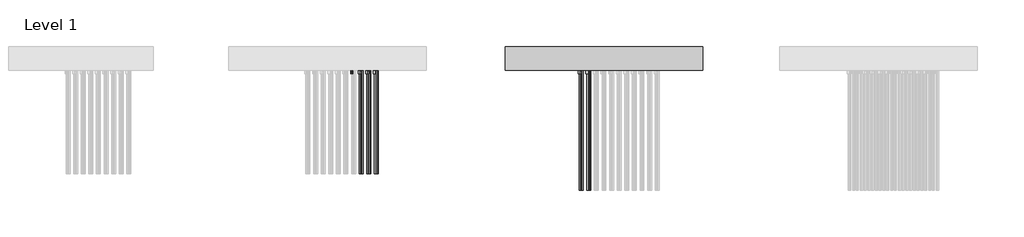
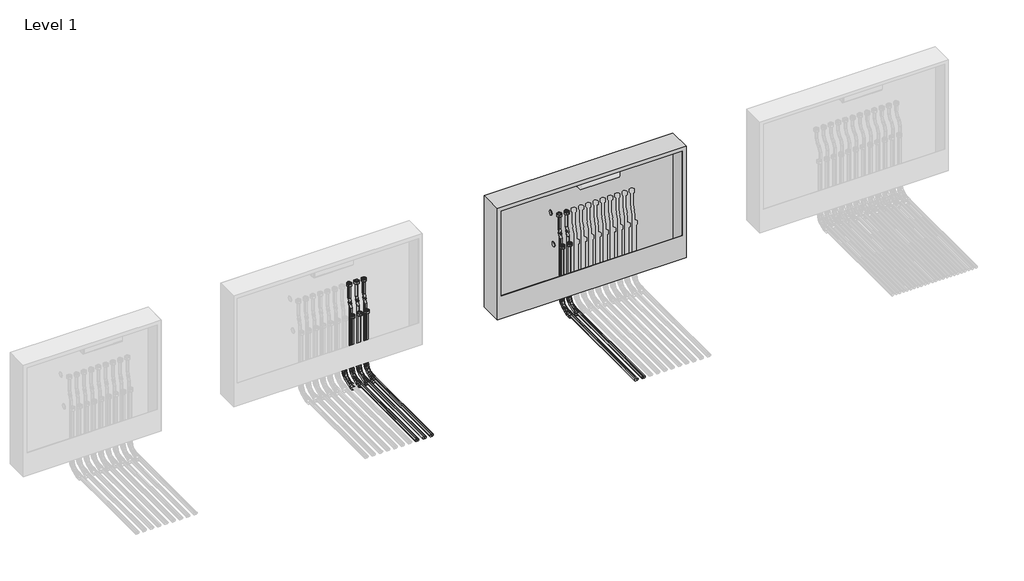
# One storey, part 11 of 15: 43 pipe fittings, 32 pipe segments, 1 valve.
"""IFC4 building model written with IfcOpenShell, lengths in millimetres."""

from ifc_helpers import new_model, si_unit, point, frame, frame_2d, origin, place, context, project, spatial, circle_curve, trimmed, segment, composite_curve, outline, extrude, transform, mapped, element, save
from components import pipe_fitting_b05a7e06, pipe_fitting_27357a6d, pipe_fitting_daada113, pipe_fitting_3e503640, valve_75f531ea

model = new_model("IFC4")

# Units and contexts
model_context = context("Model", 3, world=origin())
ifc_project = project(units=[si_unit("LENGTHUNIT", "METRE", prefix="MILLI")], contexts=[model_context])

# Site, building, storey
site = spatial("IfcSite", under=ifc_project)
building = spatial("IfcBuilding", under=site)
storey = spatial("IfcBuildingStorey", under=building, Name="Level 1", Elevation=0.0)

# Pipe fittings
placement = place(None, origin())
pipe_fitting_shape = pipe_fitting_b05a7e06(model_context)
element("IfcPipeFitting", 1, ObjectType="USYSTEMS_УгловойФиксатор_Multi : Угловой фиксатор", at=placement, inside=storey, context=model_context, shape_type="MappedRepresentation", body=[
    mapped(pipe_fitting_shape, transform((13406.541018, 3819.4868288, -114.3211479), x_axis=(0.0, 0.0, -1.0), y_axis=(0.0, -1.0, 0.0), z_axis=(-1.0, 0.0, 0.0))),
])
element("IfcPipeFitting", 2, ObjectType="USYSTEMS_УгловойФиксатор_Multi : Угловой фиксатор", at=placement, inside=storey, context=model_context, shape_type="MappedRepresentation", body=[
    mapped(pipe_fitting_shape, transform((13416.6267744, 3855.4871509, -114.3211479), x_axis=(0.0, 0.0, -1.0), y_axis=(0.0, -1.0, 0.0), z_axis=(-1.0, 0.0, 0.0))),
])
element("IfcPipeFitting", 3, ObjectType="USYSTEMS_УгловойФиксатор_Multi : Угловой фиксатор", at=placement, inside=storey, context=model_context, shape_type="MappedRepresentation", body=[
    mapped(pipe_fitting_shape, transform((13456.541018, 3819.4868288, -114.3211479), x_axis=(0.0, 0.0, -1.0), y_axis=(0.0, -1.0, 0.0), z_axis=(-1.0, 0.0, 0.0))),
])
element("IfcPipeFitting", 4, ObjectType="USYSTEMS_УгловойФиксатор_Multi : Угловой фиксатор", at=placement, inside=storey, context=model_context, shape_type="MappedRepresentation", body=[
    mapped(pipe_fitting_shape, transform((13466.6267744, 3855.4868288, -114.3211479), x_axis=(0.0, 0.0, -1.0), y_axis=(0.0, -1.0, 0.0), z_axis=(-1.0, 0.0, 0.0))),
])
element("IfcPipeFitting", 5, ObjectType="USYSTEMS_УгловойФиксатор_Multi : Угловой фиксатор", at=placement, inside=storey, context=model_context, shape_type="MappedRepresentation", body=[
    mapped(pipe_fitting_shape, transform((13506.541018, 3819.4868288, -114.3211479), x_axis=(0.0, 0.0, -1.0), y_axis=(0.0, -1.0, 0.0), z_axis=(-1.0, 0.0, 0.0))),
])
element("IfcPipeFitting", 6, ObjectType="USYSTEMS_УгловойФиксатор_Multi : Угловой фиксатор", at=placement, inside=storey, context=model_context, shape_type="MappedRepresentation", body=[
    mapped(pipe_fitting_shape, transform((13516.6267744, 3855.4868288, -114.3211479), x_axis=(0.0, 0.0, -1.0), y_axis=(0.0, -1.0, 0.0), z_axis=(-1.0, 0.0, 0.0))),
])
element("IfcPipeFitting", 7, ObjectType="USYSTEMS_УгловойФиксатор_Multi : Угловой фиксатор", at=placement, inside=storey, context=model_context, shape_type="MappedRepresentation", body=[
    mapped(pipe_fitting_shape, transform((13556.541018, 3819.4868288, -114.3211479), x_axis=(0.0, 0.0, -1.0), y_axis=(0.0, -1.0, 0.0), z_axis=(-1.0, 0.0, 0.0))),
])
element("IfcPipeFitting", 8, ObjectType="USYSTEMS_УгловойФиксатор_Multi : Угловой фиксатор", at=placement, inside=storey, context=model_context, shape_type="MappedRepresentation", body=[
    mapped(pipe_fitting_shape, transform((13566.6267744, 3855.4868288, -114.3211479), x_axis=(0.0, 0.0, -1.0), y_axis=(0.0, -1.0, 0.0), z_axis=(-1.0, 0.0, 0.0))),
])
element("IfcPipeFitting", 9, ObjectType="USYSTEMS_УгловойФиксатор_Multi : Угловой фиксатор", at=placement, inside=storey, context=model_context, shape_type="MappedRepresentation", body=[
    mapped(pipe_fitting_shape, transform((14904.1980115, 3819.7094543, -114.3211479), x_axis=(0.0, 0.0, -1.0), y_axis=(0.0, -1.0, 0.0), z_axis=(-1.0, 0.0, 0.0))),
])
element("IfcPipeFitting", 10, ObjectType="USYSTEMS_УгловойФиксатор_Multi : Угловой фиксатор", at=placement, inside=storey, context=model_context, shape_type="MappedRepresentation", body=[
    mapped(pipe_fitting_shape, transform((14954.1980115, 3819.7094543, -114.3211479), x_axis=(0.0, 0.0, -1.0), y_axis=(0.0, -1.0, 0.0), z_axis=(-1.0, 0.0, 0.0))),
])
element("IfcPipeFitting", 11, ObjectType="USYSTEMS_УгловойФиксатор_Multi : Угловой фиксатор", at=placement, inside=storey, context=model_context, shape_type="MappedRepresentation", body=[
    mapped(pipe_fitting_shape, transform((14914.283768, 3855.7094543, -114.3211479), x_axis=(0.0, 0.0, -1.0), y_axis=(0.0, -1.0, 0.0), z_axis=(-1.0, 0.0, 0.0))),
])
element("IfcPipeFitting", 12, ObjectType="USYSTEMS_УгловойФиксатор_Multi : Угловой фиксатор", at=placement, inside=storey, context=model_context, shape_type="MappedRepresentation", body=[
    mapped(pipe_fitting_shape, transform((14964.283768, 3855.7094543, -114.3211479), x_axis=(0.0, 0.0, -1.0), y_axis=(0.0, -1.0, 0.0), z_axis=(-1.0, 0.0, 0.0))),
])
pipe_fitting_2_shape = pipe_fitting_27357a6d(model_context)
element("IfcPipeFitting", 13, ObjectType="USYSTEMS_Штуцер с внутренней резьбой_FlexX_PEX : 16x2,0 x 3/4\" ВР Евроконус", at=placement, inside=storey, context=model_context, shape_type="MappedRepresentation", body=[
    mapped(pipe_fitting_2_shape, transform((13456.541018, 3819.4872889, 328.3084133), x_axis=(0.0, 0.0, 1.0), y_axis=(0.0, 1.0, 0.0), z_axis=(-1.0, 0.0, 0.0))),
])
element("IfcPipeFitting", 14, ObjectType="USYSTEMS_Штуцер с внутренней резьбой_FlexX_PEX : 16x2,0 x 3/4\" ВР Евроконус", at=placement, inside=storey, context=model_context, shape_type="MappedRepresentation", body=[
    mapped(pipe_fitting_2_shape, transform((13456.541018, 3855.4872889, 538.3084133), x_axis=(0.0, 0.0, 1.0), y_axis=(0.0, 1.0, 0.0), z_axis=(-1.0, 0.0, 0.0))),
])
element("IfcPipeFitting", 15, ObjectType="USYSTEMS_Штуцер с внутренней резьбой_FlexX_PEX : 16x2,0 x 3/4\" ВР Евроконус", at=placement, inside=storey, context=model_context, shape_type="MappedRepresentation", body=[
    mapped(pipe_fitting_2_shape, transform((13506.541018, 3819.4872889, 328.3084133), x_axis=(0.0, 0.0, 1.0), y_axis=(0.0, 1.0, 0.0), z_axis=(-1.0, 0.0, 0.0))),
])
element("IfcPipeFitting", 16, ObjectType="USYSTEMS_Штуцер с внутренней резьбой_FlexX_PEX : 16x2,0 x 3/4\" ВР Евроконус", at=placement, inside=storey, context=model_context, shape_type="MappedRepresentation", body=[
    mapped(pipe_fitting_2_shape, transform((13506.541018, 3855.4872889, 538.3084133), x_axis=(0.0, 0.0, 1.0), y_axis=(0.0, 1.0, 0.0), z_axis=(-1.0, 0.0, 0.0))),
])
element("IfcPipeFitting", 17, ObjectType="USYSTEMS_Штуцер с внутренней резьбой_FlexX_PEX : 16x2,0 x 3/4\" ВР Евроконус", at=placement, inside=storey, context=model_context, shape_type="MappedRepresentation", body=[
    mapped(pipe_fitting_2_shape, transform((13556.541018, 3819.4872889, 328.3084133), x_axis=(0.0, 0.0, 1.0), y_axis=(0.0, 1.0, 0.0), z_axis=(-1.0, 0.0, 0.0))),
])
element("IfcPipeFitting", 18, ObjectType="USYSTEMS_Штуцер с внутренней резьбой_FlexX_PEX : 16x2,0 x 3/4\" ВР Евроконус", at=placement, inside=storey, context=model_context, shape_type="MappedRepresentation", body=[
    mapped(pipe_fitting_2_shape, transform((13556.541018, 3855.4872889, 538.3084133), x_axis=(0.0, 0.0, 1.0), y_axis=(0.0, 1.0, 0.0), z_axis=(-1.0, 0.0, 0.0))),
])
element("IfcPipeFitting", 19, ObjectType="USYSTEMS_Штуцер с внутренней резьбой_FlexX_PEX : 16x2,0 x 3/4\" ВР Евроконус", at=placement, inside=storey, context=model_context, shape_type="MappedRepresentation", body=[
    mapped(pipe_fitting_2_shape, transform((14954.1980115, 3855.7099144, 538.3084133), x_axis=(0.0, 0.0, 1.0), y_axis=(0.0, 1.0, 0.0), z_axis=(-1.0, 0.0, 0.0))),
])
element("IfcPipeFitting", 20, ObjectType="USYSTEMS_Штуцер с внутренней резьбой_FlexX_PEX : 16x2,0 x 3/4\" ВР Евроконус", at=placement, inside=storey, context=model_context, shape_type="MappedRepresentation", body=[
    mapped(pipe_fitting_2_shape, transform((14954.1980115, 3819.7099144, 328.3084133), x_axis=(0.0, 0.0, 1.0), y_axis=(0.0, 1.0, 0.0), z_axis=(-1.0, 0.0, 0.0))),
])
element("IfcPipeFitting", 21, ObjectType="USYSTEMS_Штуцер с внутренней резьбой_FlexX_PEX : 16x2,0 x 3/4\" ВР Евроконус", at=placement, inside=storey, context=model_context, shape_type="MappedRepresentation", body=[
    mapped(pipe_fitting_2_shape, transform((14904.1980115, 3819.7099144, 328.3084133), x_axis=(0.0, 0.0, 1.0), y_axis=(0.0, 1.0, 0.0), z_axis=(-1.0, 0.0, 0.0))),
])
element("IfcPipeFitting", 22, ObjectType="USYSTEMS_Штуцер с внутренней резьбой_FlexX_PEX : 16x2,0 x 3/4\" ВР Евроконус", at=placement, inside=storey, context=model_context, shape_type="MappedRepresentation", body=[
    mapped(pipe_fitting_2_shape, transform((14904.1980115, 3855.7099144, 538.3084133), x_axis=(0.0, 0.0, 1.0), y_axis=(0.0, 1.0, 0.0), z_axis=(-1.0, 0.0, 0.0))),
])
pipe_fitting_3_shape = pipe_fitting_daada113(model_context)
element("IfcPipeFitting", 23, ObjectType="USYSTEMS_Гнутая труба_Radi Pipe : PN 6 в бухтах", at=placement, inside=storey, context=model_context, shape_type="MappedRepresentation", body=[
    mapped(pipe_fitting_3_shape, transform((13456.541018, 3855.4865289, 414.5388211), x_axis=(0.0, 0.0, -1.0), y_axis=(1.0, 0.0, 0.0), z_axis=(0.0, -1.0, 0.0))),
])
element("IfcPipeFitting", 24, ObjectType="USYSTEMS_Гнутая труба_Radi Pipe : PN 6 в бухтах", at=placement, inside=storey, context=model_context, shape_type="MappedRepresentation", body=[
    mapped(pipe_fitting_3_shape, transform((13466.6267744, 3855.4868288, 388.2645272), x_axis=(0.3583679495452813, 0.0, -0.9335804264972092), y_axis=(-0.9335804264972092, 0.0, -0.3583679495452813), z_axis=(0.0, 1.0, 0.0))),
])
element("IfcPipeFitting", 25, ObjectType="USYSTEMS_Гнутая труба_Radi Pipe : PN 6 в бухтах", at=placement, inside=storey, context=model_context, shape_type="MappedRepresentation", body=[
    mapped(pipe_fitting_3_shape, transform((13506.541018, 3855.4865289, 414.5388211), x_axis=(0.0, 0.0, -1.0), y_axis=(1.0, 0.0, 0.0), z_axis=(0.0, -1.0, 0.0))),
])
element("IfcPipeFitting", 26, ObjectType="USYSTEMS_Гнутая труба_Radi Pipe : PN 6 в бухтах", at=placement, inside=storey, context=model_context, shape_type="MappedRepresentation", body=[
    mapped(pipe_fitting_3_shape, transform((13516.6267744, 3855.4868288, 388.2645272), x_axis=(0.3583679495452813, 0.0, -0.9335804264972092), y_axis=(-0.9335804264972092, 0.0, -0.3583679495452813), z_axis=(0.0, 1.0, 0.0))),
])
element("IfcPipeFitting", 27, ObjectType="USYSTEMS_Гнутая труба_Radi Pipe : PN 6 в бухтах", at=placement, inside=storey, context=model_context, shape_type="MappedRepresentation", body=[
    mapped(pipe_fitting_3_shape, transform((13556.541018, 3855.4865289, 414.5388211), x_axis=(0.0, 0.0, -1.0), y_axis=(1.0, 0.0, 0.0), z_axis=(0.0, -1.0, 0.0))),
])
element("IfcPipeFitting", 28, ObjectType="USYSTEMS_Гнутая труба_Radi Pipe : PN 6 в бухтах", at=placement, inside=storey, context=model_context, shape_type="MappedRepresentation", body=[
    mapped(pipe_fitting_3_shape, transform((13566.6267744, 3855.4868288, 388.2645272), x_axis=(0.3583679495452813, 0.0, -0.9335804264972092), y_axis=(-0.9335804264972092, 0.0, -0.3583679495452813), z_axis=(0.0, 1.0, 0.0))),
])
pipe_fitting_4_shape = pipe_fitting_3e503640(model_context)
element("IfcPipeFitting", 29, ObjectType="USYSTEMS_Гнутая труба_Radi Pipe : PN 6 в бухтах_С фиксатором", at=placement, inside=storey, context=model_context, shape_type="MappedRepresentation", body=[
    mapped(pipe_fitting_4_shape, transform((13416.6267744, 3855.4871509, -114.3211479), x_axis=(0.0, 0.0, -1.0), y_axis=(0.0, -1.0, 0.0), z_axis=(-1.0, 0.0, 0.0))),
])
element("IfcPipeFitting", 30, ObjectType="USYSTEMS_Гнутая труба_Radi Pipe : PN 6 в бухтах_С фиксатором", at=placement, inside=storey, context=model_context, shape_type="MappedRepresentation", body=[
    mapped(pipe_fitting_4_shape, transform((13456.541018, 3819.4868288, -114.3211479), x_axis=(0.0, 0.0, -1.0), y_axis=(0.0, -1.0, 0.0), z_axis=(-1.0, 0.0, 0.0))),
])
element("IfcPipeFitting", 31, ObjectType="USYSTEMS_Гнутая труба_Radi Pipe : PN 6 в бухтах_С фиксатором", at=placement, inside=storey, context=model_context, shape_type="MappedRepresentation", body=[
    mapped(pipe_fitting_4_shape, transform((13466.6267744, 3855.4868288, -114.3211479), x_axis=(0.0, 0.0, -1.0), y_axis=(0.0, -1.0, 0.0), z_axis=(-1.0, 0.0, 0.0))),
])
element("IfcPipeFitting", 32, ObjectType="USYSTEMS_Гнутая труба_Radi Pipe : PN 6 в бухтах_С фиксатором", at=placement, inside=storey, context=model_context, shape_type="MappedRepresentation", body=[
    mapped(pipe_fitting_4_shape, transform((13506.541018, 3819.4868288, -114.3211479), x_axis=(0.0, 0.0, -1.0), y_axis=(0.0, -1.0, 0.0), z_axis=(-1.0, 0.0, 0.0))),
])
element("IfcPipeFitting", 33, ObjectType="USYSTEMS_Гнутая труба_Radi Pipe : PN 6 в бухтах_С фиксатором", at=placement, inside=storey, context=model_context, shape_type="MappedRepresentation", body=[
    mapped(pipe_fitting_4_shape, transform((13516.6267744, 3855.4868288, -114.3211479), x_axis=(0.0, 0.0, -1.0), y_axis=(0.0, -1.0, 0.0), z_axis=(-1.0, 0.0, 0.0))),
])
element("IfcPipeFitting", 34, ObjectType="USYSTEMS_Гнутая труба_Radi Pipe : PN 6 в бухтах_С фиксатором", at=placement, inside=storey, context=model_context, shape_type="MappedRepresentation", body=[
    mapped(pipe_fitting_4_shape, transform((13556.541018, 3819.4868288, -114.3211479), x_axis=(0.0, 0.0, -1.0), y_axis=(0.0, -1.0, 0.0), z_axis=(-1.0, 0.0, 0.0))),
])
element("IfcPipeFitting", 35, ObjectType="USYSTEMS_Гнутая труба_Radi Pipe : PN 6 в бухтах_С фиксатором", at=placement, inside=storey, context=model_context, shape_type="MappedRepresentation", body=[
    mapped(pipe_fitting_4_shape, transform((13566.6267744, 3855.4868288, -114.3211479), x_axis=(0.0, 0.0, -1.0), y_axis=(0.0, -1.0, 0.0), z_axis=(-1.0, 0.0, 0.0))),
])
element("IfcPipeFitting", 36, ObjectType="USYSTEMS_Гнутая труба_Radi Pipe : PN 6 в бухтах", at=placement, inside=storey, context=model_context, shape_type="MappedRepresentation", body=[
    mapped(pipe_fitting_3_shape, transform((14904.1980115, 3855.7091545, 414.5388211), x_axis=(0.0, 0.0, -1.0), y_axis=(1.0, 0.0, 0.0), z_axis=(0.0, -1.0, 0.0))),
])
element("IfcPipeFitting", 37, ObjectType="USYSTEMS_Гнутая труба_Radi Pipe : PN 6 в бухтах", at=placement, inside=storey, context=model_context, shape_type="MappedRepresentation", body=[
    mapped(pipe_fitting_3_shape, transform((14914.283768, 3855.7094543, 388.2645272), x_axis=(0.3583679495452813, 0.0, -0.9335804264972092), y_axis=(-0.9335804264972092, 0.0, -0.3583679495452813), z_axis=(0.0, 1.0, 0.0))),
])
element("IfcPipeFitting", 38, ObjectType="USYSTEMS_Гнутая труба_Radi Pipe : PN 6 в бухтах", at=placement, inside=storey, context=model_context, shape_type="MappedRepresentation", body=[
    mapped(pipe_fitting_3_shape, transform((14954.1980115, 3855.7091546, 414.5122189), x_axis=(0.0, 0.0, -1.0), y_axis=(1.0, 0.0, 0.0), z_axis=(0.0, -1.0, 0.0))),
])
element("IfcPipeFitting", 39, ObjectType="USYSTEMS_Гнутая труба_Radi Pipe : PN 6 в бухтах", at=placement, inside=storey, context=model_context, shape_type="MappedRepresentation", body=[
    mapped(pipe_fitting_3_shape, transform((14964.283768, 3855.7094543, 388.237925), x_axis=(0.3583679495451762, 0.0, -0.9335804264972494), y_axis=(-0.9335804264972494, 0.0, -0.3583679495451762), z_axis=(0.0, 1.0, 0.0))),
])
element("IfcPipeFitting", 40, ObjectType="USYSTEMS_Гнутая труба_Radi Pipe : PN 6 в бухтах_С фиксатором", at=placement, inside=storey, context=model_context, shape_type="MappedRepresentation", body=[
    mapped(pipe_fitting_4_shape, transform((14904.1980115, 3819.7094543, -114.3211479), x_axis=(0.0, 0.0, -1.0), y_axis=(0.0, -1.0, 0.0), z_axis=(-1.0, 0.0, 0.0))),
])
element("IfcPipeFitting", 41, ObjectType="USYSTEMS_Гнутая труба_Radi Pipe : PN 6 в бухтах_С фиксатором", at=placement, inside=storey, context=model_context, shape_type="MappedRepresentation", body=[
    mapped(pipe_fitting_4_shape, transform((14954.1980115, 3819.7094543, -114.3211479), x_axis=(0.0, 0.0, -1.0), y_axis=(0.0, -1.0, 0.0), z_axis=(-1.0, 0.0, 0.0))),
])
element("IfcPipeFitting", 42, ObjectType="USYSTEMS_Гнутая труба_Radi Pipe : PN 6 в бухтах_С фиксатором", at=placement, inside=storey, context=model_context, shape_type="MappedRepresentation", body=[
    mapped(pipe_fitting_4_shape, transform((14914.283768, 3855.7094543, -114.3211479), x_axis=(0.0, 0.0, -1.0), y_axis=(0.0, -1.0, 0.0), z_axis=(-1.0, 0.0, 0.0))),
])
element("IfcPipeFitting", 43, ObjectType="USYSTEMS_Гнутая труба_Radi Pipe : PN 6 в бухтах_С фиксатором", at=placement, inside=storey, context=model_context, shape_type="MappedRepresentation", body=[
    mapped(pipe_fitting_4_shape, transform((14964.283768, 3855.7094543, -114.3211479), x_axis=(0.0, 0.0, -1.0), y_axis=(0.0, -1.0, 0.0), z_axis=(-1.0, 0.0, 0.0))),
])

# Pipe segments
element("IfcPipeSegment", 44, ObjectType="USYSTEMS труба Radi Pipe белая PN6", at=placement, inside=storey, context=model_context, shape_type="SweptSolid", body=[
    extrude(outline(composite_curve([segment(trimmed(circle_curve(frame_2d((0.0, -8.0)), 8.0), [point((-8.0, -8.0))], [point((0.0, 0.0))], False, "CARTESIAN"), True, "CONTINUOUS"), segment(trimmed(circle_curve(frame_2d((0.0, -8.0)), 8.0), [point((0.0, 0.0))], [point((8.0, -8.0))], False, "CARTESIAN"), True, "CONTINUOUS"), segment(trimmed(circle_curve(frame_2d((0.0, -8.0)), 8.0), [point((8.0, -8.0))], [point((0.0, -16.0))], False, "CARTESIAN"), True, "CONTINUOUS"), segment(trimmed(circle_curve(frame_2d((0.0, -8.0)), 8.0), [point((0.0, -16.0))], [point((-8.0, -8.0))], False, "CARTESIAN"), True, "CONTINUOUS")], self_intersect=False)), frame((13456.541018, 3811.4868288, -43.321138), z_axis=(0.0, 1.2415007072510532e-06, 0.9999999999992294), x_axis=(-1.0, 0.0, 0.0)), (0.0, 0.0, 1.0), 370.6295612),
])
element("IfcPipeSegment", 45, ObjectType="USYSTEMS труба Radi Pipe белая PN6", at=placement, inside=storey, context=model_context, shape_type="SweptSolid", body=[
    extrude(outline(composite_curve([segment(trimmed(circle_curve(frame_2d((0.0, -8.0)), 8.0), [point((-8.0, -8.0))], [point((0.0, 0.0))], False, "CARTESIAN"), True, "CONTINUOUS"), segment(trimmed(circle_curve(frame_2d((0.0, -8.0)), 8.0), [point((0.0, 0.0))], [point((8.0, -8.0))], False, "CARTESIAN"), True, "CONTINUOUS"), segment(trimmed(circle_curve(frame_2d((0.0, -8.0)), 8.0), [point((8.0, -8.0))], [point((0.0, -16.0))], False, "CARTESIAN"), True, "CONTINUOUS"), segment(trimmed(circle_curve(frame_2d((0.0, -8.0)), 8.0), [point((0.0, -16.0))], [point((-8.0, -8.0))], False, "CARTESIAN"), True, "CONTINUOUS")], self_intersect=False)), frame((13456.541018, 3847.4865289, 438.2622802), z_axis=(0.0, 7.67280216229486e-06, 0.9999999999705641), x_axis=(-1.0, 0.0, 0.0)), (0.0, 0.0, 1.0), 99.0461944),
])
element("IfcPipeSegment", 46, ObjectType="USYSTEMS труба Radi Pipe белая PN6", at=placement, inside=storey, context=model_context, shape_type="SweptSolid", body=[
    extrude(outline(composite_curve([segment(trimmed(circle_curve(frame_2d((0.0, 8.0)), 8.0), [point((0.0003714, 16.0))], [point((8.0, 7.9996286))], False, "CARTESIAN"), True, "CONTINUOUS"), segment(trimmed(circle_curve(frame_2d((0.0, 8.0)), 8.0), [point((8.0, 7.9996286))], [point((-0.0003715, 0.0))], False, "CARTESIAN"), True, "CONTINUOUS"), segment(trimmed(circle_curve(frame_2d((0.0, 8.0)), 8.0), [point((-0.0003715, 0.0))], [point((-8.0, 8.0003714))], False, "CARTESIAN"), True, "CONTINUOUS"), segment(trimmed(circle_curve(frame_2d((0.0, 8.0)), 8.0), [point((-8.0, 8.0003714))], [point((0.0003714, 16.0))], False, "CARTESIAN"), True, "CONTINUOUS")], self_intersect=False)), frame((13465.0427234, 3847.4865289, 392.3912544), z_axis=(-0.35836794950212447, 1.5532384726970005e-05, 0.9335804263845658), x_axis=(0.9335804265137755, 5.962323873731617e-06, 0.35836794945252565)), (0.0, 0.0, 1.0), 19.3032171),
])
element("IfcPipeSegment", 47, ObjectType="USYSTEMS труба Radi Pipe белая PN6", at=placement, inside=storey, context=model_context, shape_type="SweptSolid", body=[
    extrude(outline(composite_curve([segment(trimmed(circle_curve(frame_2d((13466.6267744, 3855.4868288)), 8.0), [point((13474.6267744, 3855.4868288))], [point((13466.6267744, 3847.4868288))], False, "CARTESIAN"), True, "CONTINUOUS"), segment(trimmed(circle_curve(frame_2d((13466.6267744, 3855.4868288)), 8.0), [point((13466.6267744, 3847.4868288))], [point((13458.6267744, 3855.4868288))], False, "CARTESIAN"), True, "CONTINUOUS"), segment(trimmed(circle_curve(frame_2d((13466.6267744, 3855.4868288)), 8.0), [point((13458.6267744, 3855.4868288))], [point((13466.6267744, 3863.4868288))], False, "CARTESIAN"), True, "CONTINUOUS"), segment(trimmed(circle_curve(frame_2d((13466.6267744, 3855.4868288)), 8.0), [point((13466.6267744, 3863.4868288))], [point((13474.6267744, 3855.4868288))], False, "CARTESIAN"), True, "CONTINUOUS")], self_intersect=False)), frame((0.0, 0.0, -43.3211479), z_axis=(0.0, 0.0, 1.0), x_axis=(1.0, 0.0, 0.0)), (0.0, 0.0, 1.0), 407.8622774),
])
element("IfcPipeSegment", 48, ObjectType="USYSTEMS труба Radi Pipe белая PN6", at=placement, inside=storey, context=model_context, shape_type="SweptSolid", body=[
    extrude(outline(composite_curve([segment(trimmed(circle_curve(frame_2d((-114.3211479, 13456.541018)), 8.0), [point((-114.3211479, 13448.541018))], [point((-122.3211479, 13456.541018))], False, "CARTESIAN"), True, "CONTINUOUS"), segment(trimmed(circle_curve(frame_2d((-114.3211479, 13456.541018)), 8.0), [point((-122.3211479, 13456.541018))], [point((-114.3211479, 13464.541018))], False, "CARTESIAN"), True, "CONTINUOUS"), segment(trimmed(circle_curve(frame_2d((-114.3211479, 13456.541018)), 8.0), [point((-114.3211479, 13464.541018))], [point((-106.3211479, 13456.541018))], False, "CARTESIAN"), True, "CONTINUOUS"), segment(trimmed(circle_curve(frame_2d((-114.3211479, 13456.541018)), 8.0), [point((-106.3211479, 13456.541018))], [point((-114.3211479, 13448.541018))], False, "CARTESIAN"), True, "CONTINUOUS")], self_intersect=False)), frame((0.0, 3054.7207207, 0.0), z_axis=(0.0, 1.0, 0.0), x_axis=(0.0, 0.0, 1.0)), (0.0, 0.0, 1.0), 693.766108),
])
element("IfcPipeSegment", 49, ObjectType="USYSTEMS труба Radi Pipe белая PN6", at=placement, inside=storey, context=model_context, shape_type="SweptSolid", body=[
    extrude(outline(composite_curve([segment(trimmed(circle_curve(frame_2d((-114.3211479, 13466.6267744)), 8.0), [point((-114.3211479, 13458.6267744))], [point((-122.3211479, 13466.6267744))], False, "CARTESIAN"), True, "CONTINUOUS"), segment(trimmed(circle_curve(frame_2d((-114.3211479, 13466.6267744)), 8.0), [point((-122.3211479, 13466.6267744))], [point((-114.3211479, 13474.6267744))], False, "CARTESIAN"), True, "CONTINUOUS"), segment(trimmed(circle_curve(frame_2d((-114.3211479, 13466.6267744)), 8.0), [point((-114.3211479, 13474.6267744))], [point((-106.3211479, 13466.6267744))], False, "CARTESIAN"), True, "CONTINUOUS"), segment(trimmed(circle_curve(frame_2d((-114.3211479, 13466.6267744)), 8.0), [point((-106.3211479, 13466.6267744))], [point((-114.3211479, 13458.6267744))], False, "CARTESIAN"), True, "CONTINUOUS")], self_intersect=False)), frame((0.0, 3054.7207207, 0.0), z_axis=(0.0, 1.0, 0.0), x_axis=(0.0, 0.0, 1.0)), (0.0, 0.0, 1.0), 729.766108),
])
element("IfcPipeSegment", 50, ObjectType="USYSTEMS труба Radi Pipe белая PN6", at=placement, inside=storey, context=model_context, shape_type="SweptSolid", body=[
    extrude(outline(composite_curve([segment(trimmed(circle_curve(frame_2d((0.0, -8.0)), 8.0), [point((-8.0, -8.0))], [point((0.0, 0.0))], False, "CARTESIAN"), True, "CONTINUOUS"), segment(trimmed(circle_curve(frame_2d((0.0, -8.0)), 8.0), [point((0.0, 0.0))], [point((8.0, -8.0))], False, "CARTESIAN"), True, "CONTINUOUS"), segment(trimmed(circle_curve(frame_2d((0.0, -8.0)), 8.0), [point((8.0, -8.0))], [point((0.0, -16.0))], False, "CARTESIAN"), True, "CONTINUOUS"), segment(trimmed(circle_curve(frame_2d((0.0, -8.0)), 8.0), [point((0.0, -16.0))], [point((-8.0, -8.0))], False, "CARTESIAN"), True, "CONTINUOUS")], self_intersect=False)), frame((13506.541018, 3811.4868288, -43.321138), z_axis=(0.0, 1.2415007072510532e-06, 0.9999999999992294), x_axis=(-1.0, 0.0, 0.0)), (0.0, 0.0, 1.0), 370.6295612),
])
element("IfcPipeSegment", 51, ObjectType="USYSTEMS труба Radi Pipe белая PN6", at=placement, inside=storey, context=model_context, shape_type="SweptSolid", body=[
    extrude(outline(composite_curve([segment(trimmed(circle_curve(frame_2d((0.0, -8.0)), 8.0), [point((-8.0, -8.0))], [point((0.0, 0.0))], False, "CARTESIAN"), True, "CONTINUOUS"), segment(trimmed(circle_curve(frame_2d((0.0, -8.0)), 8.0), [point((0.0, 0.0))], [point((8.0, -8.0))], False, "CARTESIAN"), True, "CONTINUOUS"), segment(trimmed(circle_curve(frame_2d((0.0, -8.0)), 8.0), [point((8.0, -8.0))], [point((0.0, -16.0))], False, "CARTESIAN"), True, "CONTINUOUS"), segment(trimmed(circle_curve(frame_2d((0.0, -8.0)), 8.0), [point((0.0, -16.0))], [point((-8.0, -8.0))], False, "CARTESIAN"), True, "CONTINUOUS")], self_intersect=False)), frame((13506.541018, 3847.4865289, 438.2622802), z_axis=(0.0, 7.672802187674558e-06, 0.9999999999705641), x_axis=(-1.0, 0.0, 0.0)), (0.0, 0.0, 1.0), 99.0461944),
])
element("IfcPipeSegment", 52, ObjectType="USYSTEMS труба Radi Pipe белая PN6", at=placement, inside=storey, context=model_context, shape_type="SweptSolid", body=[
    extrude(outline(composite_curve([segment(trimmed(circle_curve(frame_2d((0.0, 8.0)), 8.0), [point((0.0003714, 16.0))], [point((8.0, 7.9996286))], False, "CARTESIAN"), True, "CONTINUOUS"), segment(trimmed(circle_curve(frame_2d((0.0, 8.0)), 8.0), [point((8.0, 7.9996286))], [point((-0.0003715, 0.0))], False, "CARTESIAN"), True, "CONTINUOUS"), segment(trimmed(circle_curve(frame_2d((0.0, 8.0)), 8.0), [point((-0.0003715, 0.0))], [point((-8.0, 8.0003714))], False, "CARTESIAN"), True, "CONTINUOUS"), segment(trimmed(circle_curve(frame_2d((0.0, 8.0)), 8.0), [point((-8.0, 8.0003714))], [point((0.0003714, 16.0))], False, "CARTESIAN"), True, "CONTINUOUS")], self_intersect=False)), frame((13515.0427234, 3847.4865289, 392.3912544), z_axis=(-0.3583679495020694, 1.5532384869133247e-05, 0.9335804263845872), x_axis=(0.9335804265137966, 5.962323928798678e-06, 0.3583679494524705)), (0.0, 0.0, 1.0), 19.3032171),
])
element("IfcPipeSegment", 53, ObjectType="USYSTEMS труба Radi Pipe белая PN6", at=placement, inside=storey, context=model_context, shape_type="SweptSolid", body=[
    extrude(outline(composite_curve([segment(trimmed(circle_curve(frame_2d((13516.6267744, 3855.4868288)), 8.0), [point((13524.6267744, 3855.4868288))], [point((13516.6267744, 3847.4868288))], False, "CARTESIAN"), True, "CONTINUOUS"), segment(trimmed(circle_curve(frame_2d((13516.6267744, 3855.4868288)), 8.0), [point((13516.6267744, 3847.4868288))], [point((13508.6267744, 3855.4868288))], False, "CARTESIAN"), True, "CONTINUOUS"), segment(trimmed(circle_curve(frame_2d((13516.6267744, 3855.4868288)), 8.0), [point((13508.6267744, 3855.4868288))], [point((13516.6267744, 3863.4868288))], False, "CARTESIAN"), True, "CONTINUOUS"), segment(trimmed(circle_curve(frame_2d((13516.6267744, 3855.4868288)), 8.0), [point((13516.6267744, 3863.4868288))], [point((13524.6267744, 3855.4868288))], False, "CARTESIAN"), True, "CONTINUOUS")], self_intersect=False)), frame((0.0, 0.0, -43.3211479), z_axis=(0.0, 0.0, 1.0), x_axis=(1.0, 0.0, 0.0)), (0.0, 0.0, 1.0), 407.8622774),
])
element("IfcPipeSegment", 54, ObjectType="USYSTEMS труба Radi Pipe белая PN6", at=placement, inside=storey, context=model_context, shape_type="SweptSolid", body=[
    extrude(outline(composite_curve([segment(trimmed(circle_curve(frame_2d((-114.3211479, 13506.541018)), 8.0), [point((-114.3211479, 13498.541018))], [point((-122.3211479, 13506.541018))], False, "CARTESIAN"), True, "CONTINUOUS"), segment(trimmed(circle_curve(frame_2d((-114.3211479, 13506.541018)), 8.0), [point((-122.3211479, 13506.541018))], [point((-114.3211479, 13514.541018))], False, "CARTESIAN"), True, "CONTINUOUS"), segment(trimmed(circle_curve(frame_2d((-114.3211479, 13506.541018)), 8.0), [point((-114.3211479, 13514.541018))], [point((-106.3211479, 13506.541018))], False, "CARTESIAN"), True, "CONTINUOUS"), segment(trimmed(circle_curve(frame_2d((-114.3211479, 13506.541018)), 8.0), [point((-106.3211479, 13506.541018))], [point((-114.3211479, 13498.541018))], False, "CARTESIAN"), True, "CONTINUOUS")], self_intersect=False)), frame((0.0, 3054.7207207, 0.0), z_axis=(0.0, 1.0, 0.0), x_axis=(0.0, 0.0, 1.0)), (0.0, 0.0, 1.0), 693.766108),
])
element("IfcPipeSegment", 55, ObjectType="USYSTEMS труба Radi Pipe белая PN6", at=placement, inside=storey, context=model_context, shape_type="SweptSolid", body=[
    extrude(outline(composite_curve([segment(trimmed(circle_curve(frame_2d((-114.3211479, 13516.6267744)), 8.0), [point((-114.3211479, 13508.6267744))], [point((-122.3211479, 13516.6267744))], False, "CARTESIAN"), True, "CONTINUOUS"), segment(trimmed(circle_curve(frame_2d((-114.3211479, 13516.6267744)), 8.0), [point((-122.3211479, 13516.6267744))], [point((-114.3211479, 13524.6267744))], False, "CARTESIAN"), True, "CONTINUOUS"), segment(trimmed(circle_curve(frame_2d((-114.3211479, 13516.6267744)), 8.0), [point((-114.3211479, 13524.6267744))], [point((-106.3211479, 13516.6267744))], False, "CARTESIAN"), True, "CONTINUOUS"), segment(trimmed(circle_curve(frame_2d((-114.3211479, 13516.6267744)), 8.0), [point((-106.3211479, 13516.6267744))], [point((-114.3211479, 13508.6267744))], False, "CARTESIAN"), True, "CONTINUOUS")], self_intersect=False)), frame((0.0, 3054.7207207, 0.0), z_axis=(0.0, 1.0, 0.0), x_axis=(0.0, 0.0, 1.0)), (0.0, 0.0, 1.0), 729.766108),
])
element("IfcPipeSegment", 56, ObjectType="USYSTEMS труба Radi Pipe белая PN6", at=placement, inside=storey, context=model_context, shape_type="SweptSolid", body=[
    extrude(outline(composite_curve([segment(trimmed(circle_curve(frame_2d((0.0, -8.0)), 8.0), [point((-8.0, -8.0))], [point((0.0, 0.0))], False, "CARTESIAN"), True, "CONTINUOUS"), segment(trimmed(circle_curve(frame_2d((0.0, -8.0)), 8.0), [point((0.0, 0.0))], [point((8.0, -8.0))], False, "CARTESIAN"), True, "CONTINUOUS"), segment(trimmed(circle_curve(frame_2d((0.0, -8.0)), 8.0), [point((8.0, -8.0))], [point((0.0, -16.0))], False, "CARTESIAN"), True, "CONTINUOUS"), segment(trimmed(circle_curve(frame_2d((0.0, -8.0)), 8.0), [point((0.0, -16.0))], [point((-8.0, -8.0))], False, "CARTESIAN"), True, "CONTINUOUS")], self_intersect=False)), frame((13556.541018, 3811.4868288, -43.321138), z_axis=(0.0, 1.2415007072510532e-06, 0.9999999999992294), x_axis=(-1.0, 0.0, 0.0)), (0.0, 0.0, 1.0), 370.6295612),
])
element("IfcPipeSegment", 57, ObjectType="USYSTEMS труба Radi Pipe белая PN6", at=placement, inside=storey, context=model_context, shape_type="SweptSolid", body=[
    extrude(outline(composite_curve([segment(trimmed(circle_curve(frame_2d((0.0, -8.0)), 8.0), [point((-8.0, -8.0))], [point((0.0, 0.0))], False, "CARTESIAN"), True, "CONTINUOUS"), segment(trimmed(circle_curve(frame_2d((0.0, -8.0)), 8.0), [point((0.0, 0.0))], [point((8.0, -8.0))], False, "CARTESIAN"), True, "CONTINUOUS"), segment(trimmed(circle_curve(frame_2d((0.0, -8.0)), 8.0), [point((8.0, -8.0))], [point((0.0, -16.0))], False, "CARTESIAN"), True, "CONTINUOUS"), segment(trimmed(circle_curve(frame_2d((0.0, -8.0)), 8.0), [point((0.0, -16.0))], [point((-8.0, -8.0))], False, "CARTESIAN"), True, "CONTINUOUS")], self_intersect=False)), frame((13556.541018, 3847.4865289, 438.2622802), z_axis=(0.0, 7.672802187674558e-06, 0.9999999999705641), x_axis=(-1.0, 0.0, 0.0)), (0.0, 0.0, 1.0), 99.0461944),
])
element("IfcPipeSegment", 58, ObjectType="USYSTEMS труба Radi Pipe белая PN6", at=placement, inside=storey, context=model_context, shape_type="SweptSolid", body=[
    extrude(outline(composite_curve([segment(trimmed(circle_curve(frame_2d((0.0, 8.0)), 8.0), [point((0.0003714, 16.0))], [point((8.0, 7.9996286))], False, "CARTESIAN"), True, "CONTINUOUS"), segment(trimmed(circle_curve(frame_2d((0.0, 8.0)), 8.0), [point((8.0, 7.9996286))], [point((-0.0003715, 0.0))], False, "CARTESIAN"), True, "CONTINUOUS"), segment(trimmed(circle_curve(frame_2d((0.0, 8.0)), 8.0), [point((-0.0003715, 0.0))], [point((-8.0, 8.0003714))], False, "CARTESIAN"), True, "CONTINUOUS"), segment(trimmed(circle_curve(frame_2d((0.0, 8.0)), 8.0), [point((-8.0, 8.0003714))], [point((0.0003714, 16.0))], False, "CARTESIAN"), True, "CONTINUOUS")], self_intersect=False)), frame((13565.0427234, 3847.4865289, 392.3912544), z_axis=(-0.35836794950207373, 1.553238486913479e-05, 0.9335804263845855), x_axis=(0.9335804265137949, 5.962323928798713e-06, 0.35836794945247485)), (0.0, 0.0, 1.0), 19.3032171),
])
element("IfcPipeSegment", 59, ObjectType="USYSTEMS труба Radi Pipe белая PN6", at=placement, inside=storey, context=model_context, shape_type="SweptSolid", body=[
    extrude(outline(composite_curve([segment(trimmed(circle_curve(frame_2d((13566.6267744, 3855.4868288)), 8.0), [point((13574.6267744, 3855.4868288))], [point((13566.6267744, 3847.4868288))], False, "CARTESIAN"), True, "CONTINUOUS"), segment(trimmed(circle_curve(frame_2d((13566.6267744, 3855.4868288)), 8.0), [point((13566.6267744, 3847.4868288))], [point((13558.6267744, 3855.4868288))], False, "CARTESIAN"), True, "CONTINUOUS"), segment(trimmed(circle_curve(frame_2d((13566.6267744, 3855.4868288)), 8.0), [point((13558.6267744, 3855.4868288))], [point((13566.6267744, 3863.4868288))], False, "CARTESIAN"), True, "CONTINUOUS"), segment(trimmed(circle_curve(frame_2d((13566.6267744, 3855.4868288)), 8.0), [point((13566.6267744, 3863.4868288))], [point((13574.6267744, 3855.4868288))], False, "CARTESIAN"), True, "CONTINUOUS")], self_intersect=False)), frame((0.0, 0.0, -43.3211479), z_axis=(0.0, 0.0, 1.0), x_axis=(1.0, 0.0, 0.0)), (0.0, 0.0, 1.0), 407.8622774),
])
element("IfcPipeSegment", 60, ObjectType="USYSTEMS труба Radi Pipe белая PN6", at=placement, inside=storey, context=model_context, shape_type="SweptSolid", body=[
    extrude(outline(composite_curve([segment(trimmed(circle_curve(frame_2d((-114.3211479, 13556.541018)), 8.0), [point((-114.3211479, 13548.541018))], [point((-122.3211479, 13556.541018))], False, "CARTESIAN"), True, "CONTINUOUS"), segment(trimmed(circle_curve(frame_2d((-114.3211479, 13556.541018)), 8.0), [point((-122.3211479, 13556.541018))], [point((-114.3211479, 13564.541018))], False, "CARTESIAN"), True, "CONTINUOUS"), segment(trimmed(circle_curve(frame_2d((-114.3211479, 13556.541018)), 8.0), [point((-114.3211479, 13564.541018))], [point((-106.3211479, 13556.541018))], False, "CARTESIAN"), True, "CONTINUOUS"), segment(trimmed(circle_curve(frame_2d((-114.3211479, 13556.541018)), 8.0), [point((-106.3211479, 13556.541018))], [point((-114.3211479, 13548.541018))], False, "CARTESIAN"), True, "CONTINUOUS")], self_intersect=False)), frame((0.0, 3054.7207207, 0.0), z_axis=(0.0, 1.0, 0.0), x_axis=(0.0, 0.0, 1.0)), (0.0, 0.0, 1.0), 693.766108),
])
element("IfcPipeSegment", 61, ObjectType="USYSTEMS труба Radi Pipe белая PN6", at=placement, inside=storey, context=model_context, shape_type="SweptSolid", body=[
    extrude(outline(composite_curve([segment(trimmed(circle_curve(frame_2d((-114.3211479, 13566.6267744)), 8.0), [point((-114.3211479, 13558.6267744))], [point((-122.3211479, 13566.6267744))], False, "CARTESIAN"), True, "CONTINUOUS"), segment(trimmed(circle_curve(frame_2d((-114.3211479, 13566.6267744)), 8.0), [point((-122.3211479, 13566.6267744))], [point((-114.3211479, 13574.6267744))], False, "CARTESIAN"), True, "CONTINUOUS"), segment(trimmed(circle_curve(frame_2d((-114.3211479, 13566.6267744)), 8.0), [point((-114.3211479, 13574.6267744))], [point((-106.3211479, 13566.6267744))], False, "CARTESIAN"), True, "CONTINUOUS"), segment(trimmed(circle_curve(frame_2d((-114.3211479, 13566.6267744)), 8.0), [point((-106.3211479, 13566.6267744))], [point((-114.3211479, 13558.6267744))], False, "CARTESIAN"), True, "CONTINUOUS")], self_intersect=False)), frame((0.0, 3054.7207207, 0.0), z_axis=(0.0, 1.0, 0.0), x_axis=(0.0, 0.0, 1.0)), (0.0, 0.0, 1.0), 729.766108),
])
element("IfcPipeSegment", 62, ObjectType="USYSTEMS труба Radi Pipe белая PN6", at=placement, inside=storey, context=model_context, shape_type="SweptSolid", body=[
    extrude(outline(composite_curve([segment(trimmed(circle_curve(frame_2d((0.0, -8.0)), 8.0), [point((-8.0, -8.0))], [point((0.0, 0.0))], False, "CARTESIAN"), True, "CONTINUOUS"), segment(trimmed(circle_curve(frame_2d((0.0, -8.0)), 8.0), [point((0.0, 0.0))], [point((8.0, -8.0))], False, "CARTESIAN"), True, "CONTINUOUS"), segment(trimmed(circle_curve(frame_2d((0.0, -8.0)), 8.0), [point((8.0, -8.0))], [point((0.0, -16.0))], False, "CARTESIAN"), True, "CONTINUOUS"), segment(trimmed(circle_curve(frame_2d((0.0, -8.0)), 8.0), [point((0.0, -16.0))], [point((-8.0, -8.0))], False, "CARTESIAN"), True, "CONTINUOUS")], self_intersect=False)), frame((14904.1980115, 3811.7094543, -43.321138), z_axis=(0.0, 1.241500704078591e-06, 0.9999999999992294), x_axis=(-1.0, 0.0, 0.0)), (0.0, 0.0, 1.0), 370.6295612),
])
element("IfcPipeSegment", 63, ObjectType="USYSTEMS труба Radi Pipe белая PN6", at=placement, inside=storey, context=model_context, shape_type="SweptSolid", body=[
    extrude(outline(composite_curve([segment(trimmed(circle_curve(frame_2d((0.0, -8.0)), 8.0), [point((-8.0, -8.0))], [point((0.0, 0.0))], False, "CARTESIAN"), True, "CONTINUOUS"), segment(trimmed(circle_curve(frame_2d((0.0, -8.0)), 8.0), [point((0.0, 0.0))], [point((8.0, -8.0))], False, "CARTESIAN"), True, "CONTINUOUS"), segment(trimmed(circle_curve(frame_2d((0.0, -8.0)), 8.0), [point((8.0, -8.0))], [point((0.0, -16.0))], False, "CARTESIAN"), True, "CONTINUOUS"), segment(trimmed(circle_curve(frame_2d((0.0, -8.0)), 8.0), [point((0.0, -16.0))], [point((-8.0, -8.0))], False, "CARTESIAN"), True, "CONTINUOUS")], self_intersect=False)), frame((14954.1980115, 3811.7094543, -43.321138), z_axis=(0.0, 1.241500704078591e-06, 0.9999999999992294), x_axis=(-1.0, 0.0, 0.0)), (0.0, 0.0, 1.0), 370.6295612),
])
element("IfcPipeSegment", 64, ObjectType="USYSTEMS труба Radi Pipe белая PN6", at=placement, inside=storey, context=model_context, shape_type="SweptSolid", body=[
    extrude(outline(composite_curve([segment(trimmed(circle_curve(frame_2d((0.0, -8.0)), 8.0), [point((-8.0, -8.0))], [point((0.0, 0.0))], False, "CARTESIAN"), True, "CONTINUOUS"), segment(trimmed(circle_curve(frame_2d((0.0, -8.0)), 8.0), [point((0.0, 0.0))], [point((8.0, -8.0))], False, "CARTESIAN"), True, "CONTINUOUS"), segment(trimmed(circle_curve(frame_2d((0.0, -8.0)), 8.0), [point((8.0, -8.0))], [point((0.0, -16.0))], False, "CARTESIAN"), True, "CONTINUOUS"), segment(trimmed(circle_curve(frame_2d((0.0, -8.0)), 8.0), [point((0.0, -16.0))], [point((-8.0, -8.0))], False, "CARTESIAN"), True, "CONTINUOUS")], self_intersect=False)), frame((14954.1980115, 3847.7091546, 438.235678), z_axis=(0.0, 7.669400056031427e-06, 0.9999999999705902), x_axis=(-1.0, 0.0, 0.0)), (0.0, 0.0, 1.0), 99.0727967),
])
element("IfcPipeSegment", 65, ObjectType="USYSTEMS труба Radi Pipe белая PN6", at=placement, inside=storey, context=model_context, shape_type="SweptSolid", body=[
    extrude(outline(composite_curve([segment(trimmed(circle_curve(frame_2d((0.0, -8.0)), 8.0), [point((-8.0, -8.0))], [point((0.0, 0.0))], False, "CARTESIAN"), True, "CONTINUOUS"), segment(trimmed(circle_curve(frame_2d((0.0, -8.0)), 8.0), [point((0.0, 0.0))], [point((8.0, -8.0))], False, "CARTESIAN"), True, "CONTINUOUS"), segment(trimmed(circle_curve(frame_2d((0.0, -8.0)), 8.0), [point((8.0, -8.0))], [point((0.0, -16.0))], False, "CARTESIAN"), True, "CONTINUOUS"), segment(trimmed(circle_curve(frame_2d((0.0, -8.0)), 8.0), [point((0.0, -16.0))], [point((-8.0, -8.0))], False, "CARTESIAN"), True, "CONTINUOUS")], self_intersect=False)), frame((14904.1980115, 3847.7091545, 438.2622802), z_axis=(0.0, 7.672802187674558e-06, 0.9999999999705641), x_axis=(-1.0, 0.0, 0.0)), (0.0, 0.0, 1.0), 99.0461944),
])
element("IfcPipeSegment", 66, ObjectType="USYSTEMS труба Radi Pipe белая PN6", at=placement, inside=storey, context=model_context, shape_type="SweptSolid", body=[
    extrude(outline(composite_curve([segment(trimmed(circle_curve(frame_2d((0.0, 8.0)), 8.0), [point((0.0003714, 16.0))], [point((8.0, 7.9996286))], False, "CARTESIAN"), True, "CONTINUOUS"), segment(trimmed(circle_curve(frame_2d((0.0, 8.0)), 8.0), [point((8.0, 7.9996286))], [point((-0.0003714, 0.0))], False, "CARTESIAN"), True, "CONTINUOUS"), segment(trimmed(circle_curve(frame_2d((0.0, 8.0)), 8.0), [point((-0.0003714, 0.0))], [point((-8.0, 8.0003714))], False, "CARTESIAN"), True, "CONTINUOUS"), segment(trimmed(circle_curve(frame_2d((0.0, 8.0)), 8.0), [point((-8.0, 8.0003714))], [point((0.0003714, 16.0))], False, "CARTESIAN"), True, "CONTINUOUS")], self_intersect=False)), frame((14912.6997169, 3847.7091545, 392.3912544), z_axis=(-0.35836794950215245, 1.5532384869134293e-05, 0.9335804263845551), x_axis=(0.9335804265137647, 5.9623239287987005e-06, 0.3583679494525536)), (0.0, 0.0, 1.0), 19.3032171),
])
element("IfcPipeSegment", 67, ObjectType="USYSTEMS труба Radi Pipe белая PN6", at=placement, inside=storey, context=model_context, shape_type="SweptSolid", body=[
    extrude(outline(composite_curve([segment(trimmed(circle_curve(frame_2d((14914.283768, 3855.7094543)), 8.0), [point((14922.283768, 3855.7094543))], [point((14914.283768, 3847.7094543))], False, "CARTESIAN"), True, "CONTINUOUS"), segment(trimmed(circle_curve(frame_2d((14914.283768, 3855.7094543)), 8.0), [point((14914.283768, 3847.7094543))], [point((14906.283768, 3855.7094543))], False, "CARTESIAN"), True, "CONTINUOUS"), segment(trimmed(circle_curve(frame_2d((14914.283768, 3855.7094543)), 8.0), [point((14906.283768, 3855.7094543))], [point((14914.283768, 3863.7094543))], False, "CARTESIAN"), True, "CONTINUOUS"), segment(trimmed(circle_curve(frame_2d((14914.283768, 3855.7094543)), 8.0), [point((14914.283768, 3863.7094543))], [point((14922.283768, 3855.7094543))], False, "CARTESIAN"), True, "CONTINUOUS")], self_intersect=False)), frame((0.0, 0.0, -43.3211479), z_axis=(0.0, 0.0, 1.0), x_axis=(1.0, 0.0, 0.0)), (0.0, 0.0, 1.0), 407.8622774),
])
element("IfcPipeSegment", 68, ObjectType="USYSTEMS труба Radi Pipe белая PN6", at=placement, inside=storey, context=model_context, shape_type="SweptSolid", body=[
    extrude(outline(composite_curve([segment(trimmed(circle_curve(frame_2d((0.0, 8.0)), 8.0), [point((0.0003713, 16.0))], [point((8.0, 7.9996287))], False, "CARTESIAN"), True, "CONTINUOUS"), segment(trimmed(circle_curve(frame_2d((0.0, 8.0)), 8.0), [point((8.0, 7.9996287))], [point((-0.0003712, 0.0))], False, "CARTESIAN"), True, "CONTINUOUS"), segment(trimmed(circle_curve(frame_2d((0.0, 8.0)), 8.0), [point((-0.0003712, 0.0))], [point((-8.0, 8.0003713))], False, "CARTESIAN"), True, "CONTINUOUS"), segment(trimmed(circle_curve(frame_2d((0.0, 8.0)), 8.0), [point((-8.0, 8.0003713))], [point((0.0003713, 16.0))], False, "CARTESIAN"), True, "CONTINUOUS")], self_intersect=False)), frame((14962.6997169, 3847.7091546, 392.3646521), z_axis=(-0.35836794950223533, 1.5525497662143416e-05, 0.9335804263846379), x_axis=(0.9335804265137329, 5.9596801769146e-06, 0.3583679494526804)), (0.0, 0.0, 1.0), 19.3032171),
])
element("IfcPipeSegment", 69, ObjectType="USYSTEMS труба Radi Pipe белая PN6", at=placement, inside=storey, context=model_context, shape_type="SweptSolid", body=[
    extrude(outline(composite_curve([segment(trimmed(circle_curve(frame_2d((14964.283768, 3855.7094543)), 8.0), [point((14972.283768, 3855.7094543))], [point((14964.283768, 3847.7094543))], False, "CARTESIAN"), True, "CONTINUOUS"), segment(trimmed(circle_curve(frame_2d((14964.283768, 3855.7094543)), 8.0), [point((14964.283768, 3847.7094543))], [point((14956.283768, 3855.7094543))], False, "CARTESIAN"), True, "CONTINUOUS"), segment(trimmed(circle_curve(frame_2d((14964.283768, 3855.7094543)), 8.0), [point((14956.283768, 3855.7094543))], [point((14964.283768, 3863.7094543))], False, "CARTESIAN"), True, "CONTINUOUS"), segment(trimmed(circle_curve(frame_2d((14964.283768, 3855.7094543)), 8.0), [point((14964.283768, 3863.7094543))], [point((14972.283768, 3855.7094543))], False, "CARTESIAN"), True, "CONTINUOUS")], self_intersect=False)), frame((0.0, 0.0, -43.3211479), z_axis=(0.0, 0.0, 1.0), x_axis=(1.0, 0.0, 0.0)), (0.0, 0.0, 1.0), 407.8356751),
])
element("IfcPipeSegment", 70, ObjectType="USYSTEMS труба Radi Pipe белая PN6", at=placement, inside=storey, context=model_context, shape_type="SweptSolid", body=[
    extrude(outline(composite_curve([segment(trimmed(circle_curve(frame_2d((-114.3211479, 14904.1980115)), 8.0), [point((-114.3211479, 14896.1980115))], [point((-122.3211479, 14904.1980115))], False, "CARTESIAN"), True, "CONTINUOUS"), segment(trimmed(circle_curve(frame_2d((-114.3211479, 14904.1980115)), 8.0), [point((-122.3211479, 14904.1980115))], [point((-114.3211479, 14912.1980115))], False, "CARTESIAN"), True, "CONTINUOUS"), segment(trimmed(circle_curve(frame_2d((-114.3211479, 14904.1980115)), 8.0), [point((-114.3211479, 14912.1980115))], [point((-106.3211479, 14904.1980115))], False, "CARTESIAN"), True, "CONTINUOUS"), segment(trimmed(circle_curve(frame_2d((-114.3211479, 14904.1980115)), 8.0), [point((-106.3211479, 14904.1980115))], [point((-114.3211479, 14896.1980115))], False, "CARTESIAN"), True, "CONTINUOUS")], self_intersect=False)), frame((0.0, 2946.5844543, 0.0), z_axis=(0.0, 1.0, 0.0), x_axis=(0.0, 0.0, 1.0)), (0.0, 0.0, 1.0), 802.125),
])
element("IfcPipeSegment", 71, ObjectType="USYSTEMS труба Radi Pipe белая PN6", at=placement, inside=storey, context=model_context, shape_type="SweptSolid", body=[
    extrude(outline(composite_curve([segment(trimmed(circle_curve(frame_2d((-114.3211479, 14954.1980115)), 8.0), [point((-114.3211479, 14946.1980115))], [point((-122.3211479, 14954.1980115))], False, "CARTESIAN"), True, "CONTINUOUS"), segment(trimmed(circle_curve(frame_2d((-114.3211479, 14954.1980115)), 8.0), [point((-122.3211479, 14954.1980115))], [point((-114.3211479, 14962.1980115))], False, "CARTESIAN"), True, "CONTINUOUS"), segment(trimmed(circle_curve(frame_2d((-114.3211479, 14954.1980115)), 8.0), [point((-114.3211479, 14962.1980115))], [point((-106.3211479, 14954.1980115))], False, "CARTESIAN"), True, "CONTINUOUS"), segment(trimmed(circle_curve(frame_2d((-114.3211479, 14954.1980115)), 8.0), [point((-106.3211479, 14954.1980115))], [point((-114.3211479, 14946.1980115))], False, "CARTESIAN"), True, "CONTINUOUS")], self_intersect=False)), frame((0.0, 2946.5844543, 0.0), z_axis=(0.0, 1.0, 0.0), x_axis=(0.0, 0.0, 1.0)), (0.0, 0.0, 1.0), 802.125),
])
element("IfcPipeSegment", 72, ObjectType="USYSTEMS труба Radi Pipe белая PN6", at=placement, inside=storey, context=model_context, shape_type="SweptSolid", body=[
    extrude(outline(composite_curve([segment(trimmed(circle_curve(frame_2d((-114.3211479, 14914.283768)), 8.0), [point((-114.3211479, 14906.283768))], [point((-122.3211479, 14914.283768))], False, "CARTESIAN"), True, "CONTINUOUS"), segment(trimmed(circle_curve(frame_2d((-114.3211479, 14914.283768)), 8.0), [point((-122.3211479, 14914.283768))], [point((-114.3211479, 14922.283768))], False, "CARTESIAN"), True, "CONTINUOUS"), segment(trimmed(circle_curve(frame_2d((-114.3211479, 14914.283768)), 8.0), [point((-114.3211479, 14922.283768))], [point((-106.3211479, 14914.283768))], False, "CARTESIAN"), True, "CONTINUOUS"), segment(trimmed(circle_curve(frame_2d((-114.3211479, 14914.283768)), 8.0), [point((-106.3211479, 14914.283768))], [point((-114.3211479, 14906.283768))], False, "CARTESIAN"), True, "CONTINUOUS")], self_intersect=False)), frame((0.0, 2946.5844543, 0.0), z_axis=(0.0, 1.0, 0.0), x_axis=(0.0, 0.0, 1.0)), (0.0, 0.0, 1.0), 838.125),
])
element("IfcPipeSegment", 73, ObjectType="USYSTEMS труба Radi Pipe белая PN6", at=placement, inside=storey, context=model_context, shape_type="SweptSolid", body=[
    extrude(outline(composite_curve([segment(trimmed(circle_curve(frame_2d((-114.3211479, 14964.283768)), 8.0), [point((-114.3211479, 14956.283768))], [point((-122.3211479, 14964.283768))], False, "CARTESIAN"), True, "CONTINUOUS"), segment(trimmed(circle_curve(frame_2d((-114.3211479, 14964.283768)), 8.0), [point((-122.3211479, 14964.283768))], [point((-114.3211479, 14972.283768))], False, "CARTESIAN"), True, "CONTINUOUS"), segment(trimmed(circle_curve(frame_2d((-114.3211479, 14964.283768)), 8.0), [point((-114.3211479, 14972.283768))], [point((-106.3211479, 14964.283768))], False, "CARTESIAN"), True, "CONTINUOUS"), segment(trimmed(circle_curve(frame_2d((-114.3211479, 14964.283768)), 8.0), [point((-106.3211479, 14964.283768))], [point((-114.3211479, 14956.283768))], False, "CARTESIAN"), True, "CONTINUOUS")], self_intersect=False)), frame((0.0, 2946.5844543, 0.0), z_axis=(0.0, 1.0, 0.0), x_axis=(0.0, 0.0, 1.0)), (0.0, 0.0, 1.0), 838.125),
])
element("IfcPipeSegment", 74, ObjectType="Default", at=placement, inside=storey, context=model_context, shape_type="SweptSolid", body=[
    extrude(outline(composite_curve([segment(trimmed(circle_curve(frame_2d((3855.7099144, 575.3084133)), 16.7005), [point((3839.0094144, 575.3084133))], [point((3855.7099144, 592.0089133))], False, "CARTESIAN"), True, "CONTINUOUS"), segment(trimmed(circle_curve(frame_2d((3855.7099144, 575.3084133)), 16.7005), [point((3855.7099144, 592.0089133))], [point((3872.4104144, 575.3084133))], False, "CARTESIAN"), True, "CONTINUOUS"), segment(trimmed(circle_curve(frame_2d((3855.7099144, 575.3084133)), 16.7005), [point((3872.4104144, 575.3084133))], [point((3855.7099144, 558.6079133))], False, "CARTESIAN"), True, "CONTINUOUS"), segment(trimmed(circle_curve(frame_2d((3855.7099144, 575.3084133)), 16.7005), [point((3855.7099144, 558.6079133))], [point((3839.0094144, 575.3084133))], False, "CARTESIAN"), True, "CONTINUOUS")], self_intersect=False)), frame((14843.3486033, 0.0, 0.0), z_axis=(1.0, 0.0, 0.0), x_axis=(0.0, 1.0, 0.0)), (0.0, 0.0, 1.0), 3.2494082),
])
element("IfcPipeSegment", 75, ObjectType="Default", at=placement, inside=storey, context=model_context, shape_type="SweptSolid", body=[
    extrude(outline(composite_curve([segment(trimmed(circle_curve(frame_2d((3819.7099144, 365.3084133)), 16.7005), [point((3803.0094144, 365.3084133))], [point((3819.7099144, 382.0089133))], False, "CARTESIAN"), True, "CONTINUOUS"), segment(trimmed(circle_curve(frame_2d((3819.7099144, 365.3084133)), 16.7005), [point((3819.7099144, 382.0089133))], [point((3836.4104144, 365.3084133))], False, "CARTESIAN"), True, "CONTINUOUS"), segment(trimmed(circle_curve(frame_2d((3819.7099144, 365.3084133)), 16.7005), [point((3836.4104144, 365.3084133))], [point((3819.7099144, 348.6079133))], False, "CARTESIAN"), True, "CONTINUOUS"), segment(trimmed(circle_curve(frame_2d((3819.7099144, 365.3084133)), 16.7005), [point((3819.7099144, 348.6079133))], [point((3803.0094144, 365.3084133))], False, "CARTESIAN"), True, "CONTINUOUS")], self_intersect=False)), frame((14843.1244734, 0.0, 0.0), z_axis=(1.0, 0.0, 0.0), x_axis=(0.0, 1.0, 0.0)), (0.0, 0.0, 1.0), 3.4735381),
])

# Valve
valve_shape = valve_75f531ea(model_context)
element("IfcValve", 76, ObjectType="USYSTEMS_Коллекторный шкаф_Накладной : 1300x160 мм", at=placement, inside=storey, context=model_context, shape_type="MappedRepresentation", body=[
    mapped(valve_shape, transform((15058.1953352, 3891.6487877, 423.1788521), x_axis=(1.0, 0.0, 0.0), y_axis=(0.0, 0.0, 1.0), z_axis=(0.0, -1.0, 0.0))),
])

save(model, "model.ifc")
